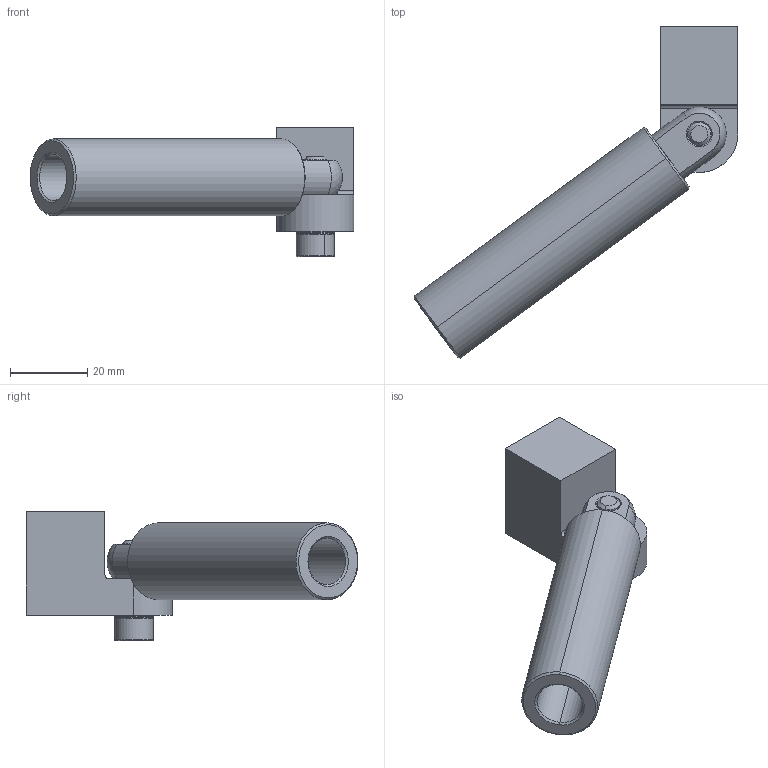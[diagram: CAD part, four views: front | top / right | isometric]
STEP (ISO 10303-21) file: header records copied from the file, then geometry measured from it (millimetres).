
FILE_DESCRIPTION (( 'STEP AP214' ), '1' );
FILE_NAME ('SEAV-G1420L75.STEP', '2019-11-11T05:36:23', ( '微软用户' ), ( '微软中国' ), 'SwSTEP 2.0', 'SolidWorks 2016', '' );
FILE_SCHEMA (( 'AUTOMOTIVE_DESIGN' ));
Length unit declared in the file: millimetre
Products named in the file (1): SEAV-G1420L75
Bounding box: 84.06 x 86.18 x 33.6 mm (x, y, z)
Surface area: 14445.4 mm2 (no closed solid volume)
Topology: 0 solids, 5 shells, 214 faces, 605 edges, 396 vertices
Faces by surface type: plane 165, cylinder 27, cone 18, bspline 2, sphere 2
Entity records: 9622 total; most frequent: CARTESIAN_POINT 1542, DIRECTION 1223, ORIENTED_EDGE 1186, EDGE_CURVE 595, AXIS2_PLACEMENT_3D 427, VERTEX_POINT 392, VECTOR 369, LINE 369
